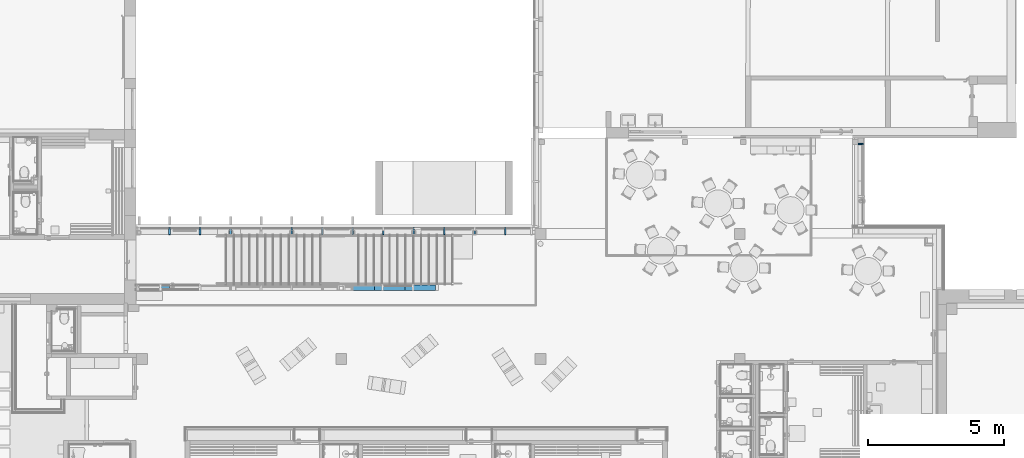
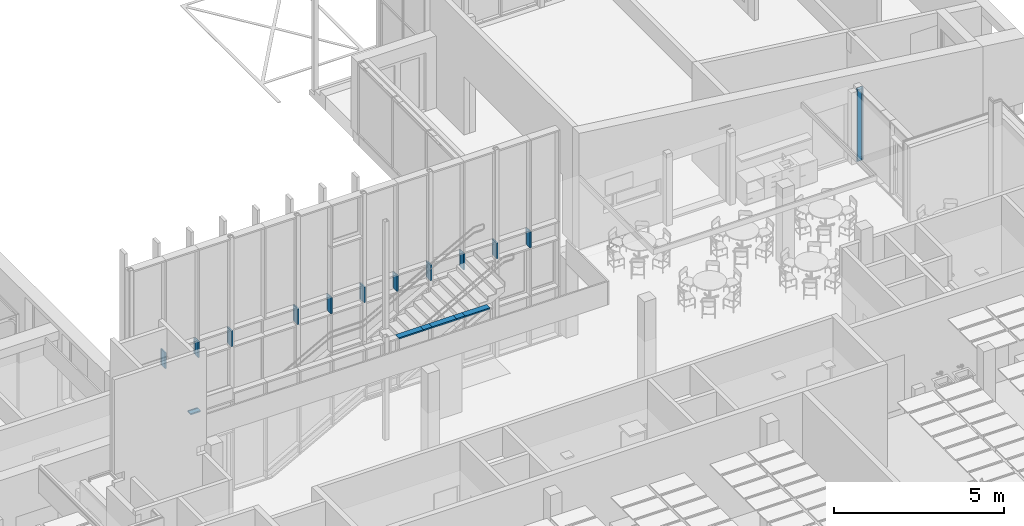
# One storey, part 5 of 301: 18 members, 4 elements without a shape of their own.
"""IFC2X3 building model written with IfcOpenShell, lengths in millimetres."""

import ifcopenshell
import ifcopenshell.guid

model = None  # the IFC model being written
_history = None  # IfcOwnerHistory: only IFC2X3 demands one
_inside = {}  # id of a spatial element -> (the spatial element, [elements in it])
_under = {}  # id of a project, library or spatial element -> (it, [spatial elements below it])
_declared = {}  # id of a project -> (the project, [libraries it declares])
_typed = {}  # id of a type object -> (the type object, [elements of that type])
_made_of = {}  # id of a material, layer set ... -> (it, [elements and type objects made of it])


def new_model(schema):
    """Start an empty IFC model of exactly this schema.

    Asked for "IFC4X3", IfcOpenShell would pick the latest addendum, in which some entities
    have other attributes; the version numbers below select the first issue.
    IFC2X3 requires an IfcOwnerHistory on every rooted entity: one is made here for all.
    """
    global model, _history
    if schema == "IFC4X3":
        model = ifcopenshell.file(schema_version=(4, 3, 0, 0))
    else:
        model = ifcopenshell.file(schema=schema)
    _inside.clear()
    _under.clear()
    _declared.clear()
    _typed.clear()
    _made_of.clear()
    _history = None
    if model.schema == "IFC2X3":
        org = make("IfcOrganization", Name="unknown")
        user = make(
            "IfcPersonAndOrganization",
            ThePerson=make("IfcPerson", FamilyName="unknown"),
            TheOrganization=org,
        )
        app = make(
            "IfcApplication",
            ApplicationDeveloper=org,
            Version="unknown",
            ApplicationFullName="unknown",
            ApplicationIdentifier="unknown",
        )
        _history = make(
            "IfcOwnerHistory",
            OwningUser=user,
            OwningApplication=app,
            ChangeAction="ADDED",
            CreationDate=0,
        )
    return model


def make(cls, **values):
    """One entity of the class cls with the attributes given. An attribute that is None is left unset."""
    return model.create_entity(
        cls, **{name: value for name, value in values.items() if value is not None}
    )


def entity(cls, *values):
    """Any entity or typed value of the class cls, its attributes in the order of the schema. None: left unset."""
    e = model.create_entity(cls)
    for i, value in enumerate(values):
        if value is not None:
            e[i] = value
    return e


def rooted(cls, **values):
    """An entity with a GlobalId (a new one), such as an element, a storey or a relation."""
    return make(cls, GlobalId=ifcopenshell.guid.new(), OwnerHistory=_history, **values)


def si_unit(unit_type, name, prefix=None):
    """IfcSIUnit, for example si_unit("LENGTHUNIT", "METRE", prefix="MILLI")."""
    return make("IfcSIUnit", UnitType=unit_type, Prefix=prefix, Name=name)


def converted_unit(unit_type, name, factor, base, dimensions=None, offset=None):
    """IfcConversionBasedUnit, such as the inch: factor (a typed value) times the base unit."""
    return make(
        "IfcConversionBasedUnit"
        if offset is None
        else "IfcConversionBasedUnitWithOffset",
        ConversionOffset=offset,
        Dimensions=None
        if dimensions is None
        else entity("IfcDimensionalExponents", *dimensions),
        UnitType=unit_type,
        Name=name,
        ConversionFactor=make(
            "IfcMeasureWithUnit", ValueComponent=factor, UnitComponent=base
        ),
    )


def derived_unit(unit_type, elements):
    """IfcDerivedUnit: a product of units, each with its exponent."""
    return make(
        "IfcDerivedUnit",
        Elements=[
            make("IfcDerivedUnitElement", Unit=unit, Exponent=power)
            for unit, power in elements
        ],
        UnitType=unit_type,
    )


def money_unit(currency):
    """IfcMonetaryUnit."""
    return make("IfcMonetaryUnit", Currency=currency)


def assignment(units):
    """IfcUnitAssignment: the units of a project."""
    return None if units is None else make("IfcUnitAssignment", Units=units)


def point(xyz):
    """IfcCartesianPoint."""
    return None if xyz is None else make("IfcCartesianPoint", Coordinates=xyz)


def direction(xyz):
    """IfcDirection."""
    return None if xyz is None else make("IfcDirection", DirectionRatios=xyz)


def frame(location, z_axis=None, x_axis=None):
    """IfcAxis2Placement3D, a coordinate frame: its origin and axes. An axis left out is left unset."""
    return make(
        "IfcAxis2Placement3D",
        Location=point(location),
        Axis=direction(z_axis),
        RefDirection=direction(x_axis),
    )


def origin_with_axes():
    """The frame at (0, 0, 0) with the z axis (0, 0, 1) and the x axis (1, 0, 0) written out."""
    return frame((0.0, 0.0, 0.0), z_axis=(0.0, 0.0, 1.0), x_axis=(1.0, 0.0, 0.0))


def place(relative_to, where):
    """IfcLocalPlacement: puts the frame where relative to a parent placement (None: the world)."""
    return make(
        "IfcLocalPlacement", PlacementRelTo=relative_to, RelativePlacement=where
    )


def context(
    kind, dimensions, precision=None, world=None, true_north=None, identifier=None
):
    """IfcGeometricRepresentationContext, for example the 3D "Model" context."""
    return make(
        "IfcGeometricRepresentationContext",
        ContextIdentifier=identifier,
        ContextType=kind,
        CoordinateSpaceDimension=dimensions,
        Precision=precision,
        WorldCoordinateSystem=world,
        TrueNorth=true_north,
    )


def subcontext(parent, identifier, kind, view, scale=None):
    """IfcGeometricRepresentationSubContext, for example "Body" below "Model"."""
    return make(
        "IfcGeometricRepresentationSubContext",
        ContextIdentifier=identifier,
        ContextType=kind,
        ParentContext=parent,
        TargetScale=scale,
        TargetView=view,
    )


def project(units=None, contexts=None):
    """IfcProject with its units and contexts."""
    return rooted(
        "IfcProject",
        Name="project",
        RepresentationContexts=contexts,
        UnitsInContext=assignment(units),
    )


def spatial(cls, under=None, at=None, **own):
    """A site, building, storey or space (cls), placed at a placement, below another one or the project."""
    s = rooted(cls, ObjectPlacement=at, **own)
    if under is not None:
        _under.setdefault(under.id(), (under, []))[1].append(s)
    return s


def faces_of(points, faces, orient=None, outer=None):
    """IfcFace entities. A face is a list of loops; a loop is a list of indices into points, from 0.

    orient and outer hold one flag for each loop. By default every Orientation is true, the
    first loop of a face is its IfcFaceOuterBound and the others are IfcFaceBound.
    """
    made = []
    for i, loops in enumerate(faces):
        bounds = []
        for j, loop in enumerate(loops):
            is_outer = j == 0 if outer is None else outer[i][j]
            bounds.append(
                make(
                    "IfcFaceOuterBound" if is_outer else "IfcFaceBound",
                    Bound=make("IfcPolyLoop", Polygon=[points[k] for k in loop]),
                    Orientation=True if orient is None else orient[i][j],
                )
            )
        made.append(make("IfcFace", Bounds=bounds))
    return made


def faceted_brep(points, faces, orient=None, outer=None, voids=None):
    """IfcFacetedBrep: a solid bounded by flat faces; with voids (closed shells), ...WithVoids."""
    shared = [point(p) for p in points]
    hull = make("IfcClosedShell", CfsFaces=faces_of(shared, faces, orient, outer))
    if voids is None:
        return make("IfcFacetedBrep", Outer=hull)
    return make(
        "IfcFacetedBrepWithVoids",
        Outer=hull,
        Voids=[
            make(cls, CfsFaces=faces_of(shared, fs, o, b)) for cls, fs, o, b in voids
        ],
    )


def shape(context_of_items, identifier, shape_type, items):
    """IfcShapeRepresentation: the items that make up one representation, for example the "Body"."""
    return make(
        "IfcShapeRepresentation",
        ContextOfItems=context_of_items,
        RepresentationIdentifier=identifier,
        RepresentationType=shape_type,
        Items=items,
    )


def source(mapping_origin, context_of_items, identifier, shape_type, items):
    """IfcRepresentationMap: a shape defined once, which mapped items show again and again."""
    return make(
        "IfcRepresentationMap",
        MappingOrigin=mapping_origin,
        MappedRepresentation=shape(context_of_items, identifier, shape_type, items),
    )


def transform(
    local_origin,
    x_axis=None,
    y_axis=None,
    z_axis=None,
    scale=None,
    scale2=None,
    scale3=None,
    uniform=True,
):
    """IfcCartesianTransformationOperator3D, or its non-uniform kind. x_axis, y_axis, z_axis: its Axis1, 2, 3."""
    if uniform:
        return make(
            "IfcCartesianTransformationOperator3D",
            Axis1=direction(x_axis),
            Axis2=direction(y_axis),
            LocalOrigin=point(local_origin),
            Scale=scale,
            Axis3=direction(z_axis),
        )
    return make(
        "IfcCartesianTransformationOperator3DnonUniform",
        Axis1=direction(x_axis),
        Axis2=direction(y_axis),
        LocalOrigin=point(local_origin),
        Scale=scale,
        Axis3=direction(z_axis),
        Scale2=scale2,
        Scale3=scale3,
    )


def mapped(mapping_source, mapping_target):
    """IfcMappedItem: shows the shape of a source again, moved by a transform."""
    return make(
        "IfcMappedItem", MappingSource=mapping_source, MappingTarget=mapping_target
    )


def material(Name=None, Category=None):
    """IfcMaterial."""
    return make("IfcMaterial", Name=Name, Category=Category)


def made_of(thing, what):
    """Note that an element or type object is made of a material, layer set ...; save() writes the relation."""
    if what is not None:
        _made_of.setdefault(what.id(), (what, []))[1].append(thing)
    return thing


def type_object(cls, material=None, **own):
    """A type object (cls), such as IfcWallType, which elements share."""
    return made_of(rooted(cls, **own), material)


def element(
    cls,
    number,
    at=None,
    inside=None,
    cuts=None,
    type_object=None,
    material=None,
    context=None,
    identifier="Body",
    shape_type=None,
    held_by="IfcProductDefinitionShape",
    body=None,
    shapes=None,
    **own,
):
    """One element of the class cls, such as IfcWall. Its Tag is "e" and its number.

    at: its placement. inside: the storey or other place that contains it. cuts: it is an
    opening in that element (IfcRelVoidsElement). A single representation is given by context,
    identifier, shape_type and body (its items); several are given by shapes. held_by: the class
    of the entity that holds the representations. save() writes the other relations.
    """
    e = rooted(cls, Tag="e%d" % number, ObjectPlacement=at, **own)
    if body is not None:
        shapes = [shape(context, identifier, shape_type, body)]
    if shapes is not None:
        e.Representation = make(held_by, Representations=shapes)
    if inside is not None:
        _inside.setdefault(inside.id(), (inside, []))[1].append(e)
    if cuts is not None:
        rooted(
            "IfcRelVoidsElement", RelatingBuildingElement=cuts, RelatedOpeningElement=e
        )
    if type_object is not None:
        _typed.setdefault(type_object.id(), (type_object, []))[1].append(e)
    return made_of(e, material)


def aggregate(whole, parts):
    """IfcRelAggregates: a whole, such as a stair, and the parts it consists of."""
    return rooted("IfcRelAggregates", RelatingObject=whole, RelatedObjects=parts)


def save(model, path):
    """Write the relations noted so far, then the file.

    IfcRelAggregates (storeys below a building ...), IfcRelContainedInSpatialStructure (elements
    in a storey), IfcRelDefinesByType, IfcRelAssociatesMaterial and IfcRelDeclares: one each for
    every whole, place, type object, material and project.
    """
    for whole, parts in _under.values():
        aggregate(whole, parts)
    for where, things in _inside.values():
        rooted(
            "IfcRelContainedInSpatialStructure",
            RelatedElements=things,
            RelatingStructure=where,
        )
    for kind, things in _typed.values():
        rooted("IfcRelDefinesByType", RelatedObjects=things, RelatingType=kind)
    for what, things in _made_of.values():
        rooted("IfcRelAssociatesMaterial", RelatedObjects=things, RelatingMaterial=what)
    for by, libraries in _declared.values():
        rooted("IfcRelDeclares", RelatingContext=by, RelatedDefinitions=libraries)
    model.write(path)


model = new_model("IFC2X3")

# Units and contexts
model_context = context("Model", 3, precision=0.01, world=origin_with_axes(), true_north=direction((0.0, 1.0)))
body_context = subcontext(model_context, "Body", "Model", "MODEL_VIEW")
ifc_project = project(units=[si_unit("LENGTHUNIT", "METRE", prefix="MILLI"), si_unit("AREAUNIT", "SQUARE_METRE"), si_unit("VOLUMEUNIT", "CUBIC_METRE"), converted_unit("PLANEANGLEUNIT", "DEGREE", entity("IfcPlaneAngleMeasure", 0.0174532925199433), si_unit("PLANEANGLEUNIT", "RADIAN"), dimensions=[0, 0, 0, 0, 0, 0, 0]), money_unit("EUR"), converted_unit("TIMEUNIT", "Year", entity("IfcTimeMeasure", 31557600.0), si_unit("TIMEUNIT", "SECOND"), dimensions=[0, 0, 1, 0, 0, 0, 0]), si_unit("MASSUNIT", "GRAM", prefix="KILO"), si_unit("THERMODYNAMICTEMPERATUREUNIT", "DEGREE_CELSIUS"), si_unit("LUMINOUSINTENSITYUNIT", "LUMEN"), si_unit("ENERGYUNIT", "JOULE", prefix="MEGA"), derived_unit("THERMALCONDUCTANCEUNIT", [(si_unit("POWERUNIT", "WATT"), 1), (si_unit("LENGTHUNIT", "METRE"), -1), (si_unit("THERMODYNAMICTEMPERATUREUNIT", "KELVIN"), -1)]), derived_unit("SPECIFICHEATCAPACITYUNIT", [(si_unit("ENERGYUNIT", "JOULE"), 1), (si_unit("MASSUNIT", "GRAM", prefix="KILO"), -1), (si_unit("THERMODYNAMICTEMPERATUREUNIT", "KELVIN"), -1)]), derived_unit("MASSDENSITYUNIT", [(si_unit("MASSUNIT", "GRAM", prefix="KILO"), 1), (si_unit("VOLUMEUNIT", "CUBIC_METRE"), -1)])], contexts=[model_context])

# Site, building, storey
site_placement = place(None, frame((0.0, 0.0, 8650.0), z_axis=(0.0, 0.0, 1.0), x_axis=(1.0, 0.0, 0.0)))
site = spatial("IfcSite", under=ifc_project, at=site_placement, Name="43301:001:0844", CompositionType="ELEMENT")
building_placement = place(site_placement, origin_with_axes())
building = spatial("IfcBuilding", under=site, at=building_placement, Name="Kuressaare Ametikooli tuulikute mehaanikute õppekorpus", CompositionType="ELEMENT")
storey_placement = place(building_placement, origin_with_axes())
storey = spatial("IfcBuildingStorey", under=building, at=storey_placement, Name="1.korrus", CompositionType="ELEMENT", Elevation=0.0)

# Curtain wall, members
curtain_wall_type = type_object("IfcCurtainWallType", Name="Curtain Wall Type", PredefinedType="NOTDEFINED")
curtain_wall_1_placement = place(storey_placement, frame((116704.6026822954, 28579.57374875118, 35.00000000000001), z_axis=(0.0, 0.0, 1.0), x_axis=(1.0, 0.0, 0.0)))
curtain_wall_1 = element("IfcCurtainWall", 1, at=curtain_wall_1_placement, inside=storey, type_object=curtain_wall_type, Name="KF-1.1")
ifc_material = material(Name="Aluminium")
member_type_1 = type_object("IfcMemberType", Name="Mullion Frame 50 x 260", PredefinedType="NOTDEFINED")
shared_shape_1 = source(origin_with_axes(), body_context, "Body", "Brep", [
    faceted_brep([(5.000000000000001, -20.0, 594.9999919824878), (5.000000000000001, 20.0, 594.9999919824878), (25.0, 19.99999999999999, 594.9999919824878), (25.0, 40.00000000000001, 594.9999919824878), (-25.0, 40.00000000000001, 594.9999919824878), (-25.0, 20.0, 594.9999919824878), (-5.000000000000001, 20.0, 594.9999919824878), (-5.000000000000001, -20.0, 594.9999919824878), (-25.0, -20.0, 594.9999919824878), (-25.0, -220.0, 594.9999919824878), (25.0, -220.0, 594.9999919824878), (25.0, -19.99999999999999, 594.9999919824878), (5.000000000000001, -20.0, 24.99999999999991), (5.000000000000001, 20.0, 24.99999999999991), (25.0, 20.0, 24.99999999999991), (25.0, 40.00000000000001, 24.99999999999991), (-25.0, 40.00000000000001, 24.99999999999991), (-25.0, 19.99999999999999, 24.99999999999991), (-5.000000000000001, 20.0, 24.99999999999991), (-5.000000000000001, -20.0, 24.99999999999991), (-25.0, -19.99999999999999, 24.99999999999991), (-25.0, -220.0, 24.99999999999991), (25.0, -220.0, 24.99999999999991), (25.0, -20.0, 24.99999999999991)], [[[0, 1, 2, 3, 4, 5, 6, 7, 8, 9, 10, 11]], [[0, 12, 13, 1]], [[1, 13, 14, 2]], [[14, 15, 3, 2]], [[4, 3, 15, 16]], [[17, 5, 4, 16]], [[5, 17, 18, 6]], [[7, 6, 18, 19]], [[8, 7, 19, 20]], [[8, 20, 21, 9]], [[10, 9, 21, 22]], [[11, 10, 22, 23]], [[11, 23, 12, 0]], [[13, 12, 23, 22, 21, 20, 19, 18, 17, 16, 15, 14]]]),
])
member_1_placement = place(curtain_wall_1_placement, frame((-11812.5, 0.0, 3470.000008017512), z_axis=(0.0, 0.0, 1.0), x_axis=(-1.0, 0.0, 0.0)))
member_1 = element("IfcMember", 2, at=member_1_placement, type_object=member_type_1, material=ifc_material, context=body_context, shape_type="MappedRepresentation", body=[
    mapped(shared_shape_1, transform((0.0, 0.0, 0.0), x_axis=(-1.0, 0.0, 0.0), y_axis=(0.0, -1.0, 0.0), z_axis=(0.0, 0.0, 1.0))),
])
member_2_placement = place(curtain_wall_1_placement, frame((-10687.5, 0.0, 3470.000008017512), z_axis=(0.0, 0.0, 1.0), x_axis=(-1.0, 0.0, 0.0)))
member_2 = element("IfcMember", 3, at=member_2_placement, type_object=member_type_1, material=ifc_material, context=body_context, shape_type="MappedRepresentation", body=[
    mapped(shared_shape_1, transform((0.0, 0.0, 0.0), x_axis=(-1.0, 0.0, 0.0), y_axis=(0.0, -1.0, 0.0), z_axis=(0.0, 0.0, 1.0))),
])
member_3_placement = place(curtain_wall_1_placement, frame((-9562.5, 0.0, 3470.000008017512), z_axis=(0.0, 0.0, 1.0), x_axis=(-1.0, 0.0, 0.0)))
member_3 = element("IfcMember", 4, at=member_3_placement, type_object=member_type_1, material=ifc_material, context=body_context, shape_type="MappedRepresentation", body=[
    mapped(shared_shape_1, transform((0.0, 0.0, 0.0), x_axis=(-1.0, 0.0, 0.0), y_axis=(0.0, -1.0, 0.0), z_axis=(0.0, 0.0, 1.0))),
])
member_4_placement = place(curtain_wall_1_placement, frame((-7312.5, 0.0, 3470.000008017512), z_axis=(0.0, 0.0, 1.0), x_axis=(-1.0, 0.0, 0.0)))
member_4 = element("IfcMember", 5, at=member_4_placement, type_object=member_type_1, material=ifc_material, context=body_context, shape_type="MappedRepresentation", body=[
    mapped(shared_shape_1, transform((0.0, 0.0, 0.0), x_axis=(-1.0, 0.0, 0.0), y_axis=(0.0, -1.0, 0.0), z_axis=(0.0, 0.0, 1.0))),
])
member_5_placement = place(curtain_wall_1_placement, frame((-6187.5, 0.0, 3470.000008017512), z_axis=(0.0, 0.0, 1.0), x_axis=(-1.0, 0.0, 0.0)))
member_5 = element("IfcMember", 6, at=member_5_placement, type_object=member_type_1, material=ifc_material, context=body_context, shape_type="MappedRepresentation", body=[
    mapped(shared_shape_1, transform((0.0, 0.0, 0.0), x_axis=(-1.0, 0.0, 0.0), y_axis=(0.0, -1.0, 0.0), z_axis=(0.0, 0.0, 1.0))),
])
member_6_placement = place(curtain_wall_1_placement, frame((-5062.5, 0.0, 3470.000008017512), z_axis=(0.0, 0.0, 1.0), x_axis=(-1.0, 0.0, 0.0)))
member_6 = element("IfcMember", 7, at=member_6_placement, type_object=member_type_1, material=ifc_material, context=body_context, shape_type="MappedRepresentation", body=[
    mapped(shared_shape_1, transform((0.0, 0.0, 0.0), x_axis=(-1.0, 0.0, 0.0), y_axis=(0.0, -1.0, 0.0), z_axis=(0.0, 0.0, 1.0))),
])
member_7_placement = place(curtain_wall_1_placement, frame((-3937.5, 0.0, 3470.000008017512), z_axis=(0.0, 0.0, 1.0), x_axis=(-1.0, 0.0, 0.0)))
member_7 = element("IfcMember", 8, at=member_7_placement, type_object=member_type_1, material=ifc_material, context=body_context, shape_type="MappedRepresentation", body=[
    mapped(shared_shape_1, transform((0.0, 0.0, 0.0), x_axis=(-1.0, 0.0, 0.0), y_axis=(0.0, -1.0, 0.0), z_axis=(0.0, 0.0, 1.0))),
])
member_8_placement = place(curtain_wall_1_placement, frame((-2812.5, 0.0, 3470.000008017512), z_axis=(0.0, 0.0, 1.0), x_axis=(-1.0, 0.0, 0.0)))
member_8 = element("IfcMember", 9, at=member_8_placement, type_object=member_type_1, material=ifc_material, context=body_context, shape_type="MappedRepresentation", body=[
    mapped(shared_shape_1, transform((0.0, 0.0, 0.0), x_axis=(-1.0, 0.0, 0.0), y_axis=(0.0, -1.0, 0.0), z_axis=(0.0, 0.0, 1.0))),
])
member_9_placement = place(curtain_wall_1_placement, frame((-1687.5, 0.0, 3470.000008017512), z_axis=(0.0, 0.0, 1.0), x_axis=(-1.0, 0.0, 0.0)))
member_9 = element("IfcMember", 10, at=member_9_placement, type_object=member_type_1, material=ifc_material, context=body_context, shape_type="MappedRepresentation", body=[
    mapped(shared_shape_1, transform((0.0, 0.0, 0.0), x_axis=(-1.0, 0.0, 0.0), y_axis=(0.0, -1.0, 0.0), z_axis=(0.0, 0.0, 1.0))),
])
member_10_placement = place(curtain_wall_1_placement, frame((-562.5, 0.0, 3470.000008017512), z_axis=(0.0, 0.0, 1.0), x_axis=(-1.0, 0.0, 0.0)))
member_10 = element("IfcMember", 11, at=member_10_placement, type_object=member_type_1, material=ifc_material, context=body_context, shape_type="MappedRepresentation", body=[
    mapped(shared_shape_1, transform((0.0, 0.0, 0.0), x_axis=(-1.0, 0.0, 0.0), y_axis=(0.0, -1.0, 0.0), z_axis=(0.0, 0.0, 1.0))),
])
member_11_placement = place(curtain_wall_1_placement, frame((562.5, 0.0, 3470.000008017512), z_axis=(0.0, 0.0, 1.0), x_axis=(-1.0, 0.0, 0.0)))
member_11 = element("IfcMember", 12, at=member_11_placement, type_object=member_type_1, material=ifc_material, context=body_context, shape_type="MappedRepresentation", body=[
    mapped(shared_shape_1, transform((0.0, 0.0, 0.0), x_axis=(-1.0, 0.0, 0.0), y_axis=(0.0, -1.0, 0.0), z_axis=(0.0, 0.0, 1.0))),
])
aggregate(curtain_wall_1, [member_1, member_2, member_3, member_4, member_5, member_6, member_7, member_8, member_9, member_10, member_11])

# Curtain wall, member
curtain_wall_2_placement = place(storey_placement, frame((105155.4360221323, 26479.57374875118, 34.99996632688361), z_axis=(0.0, 0.0, 1.0), x_axis=(1.0, 0.0, 0.0)))
curtain_wall_2 = element("IfcCurtainWall", 13, at=curtain_wall_2_placement, inside=storey, type_object=curtain_wall_type, Name="SKF-1.1,EI60")
member_type_2 = type_object("IfcMemberType", Name="Boundary Frame 50 x 200", PredefinedType="NOTDEFINED")
shared_shape_2 = source(origin_with_axes(), body_context, "Body", "Brep", [
    faceted_brep([(5.000000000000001, -20.0, 335.0000065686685), (5.000000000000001, 20.0, 335.0000065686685), (25.0, 20.0, 335.0000065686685), (25.0, 30.0, 335.0000065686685), (-25.0, 30.0, 335.0000065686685), (-25.0, 19.99999999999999, 335.0000065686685), (-5.000000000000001, 20.0, 335.0000065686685), (-5.000000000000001, -20.0, 335.0000065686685), (-25.0, -19.99999999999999, 335.0000065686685), (-25.0, -170.0, 335.0000065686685), (25.0, -170.0, 335.0000065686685), (25.0, -20.0, 335.0000065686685), (5.000000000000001, -20.0, -3.724831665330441e-05), (5.000000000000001, 20.0, -3.724831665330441e-05), (25.0, 20.0, -3.724831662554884e-05), (25.0, 30.0, -3.724831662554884e-05), (-25.0, 30.0, -3.724831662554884e-05), (-25.0, 19.99999999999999, -3.724831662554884e-05), (-5.000000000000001, 20.0, -3.724831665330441e-05), (-5.000000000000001, -20.0, -3.724831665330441e-05), (-25.0, -19.99999999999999, -3.724831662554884e-05), (-25.0, -170.0, -3.724831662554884e-05), (25.0, -170.0, -3.724831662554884e-05), (25.0, -20.0, -3.724831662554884e-05)], [[[0, 1, 2, 3, 4, 5, 6, 7, 8, 9, 10, 11]], [[0, 12, 13, 1]], [[1, 13, 14, 2]], [[14, 15, 3, 2]], [[3, 15, 16, 4]], [[17, 5, 4, 16]], [[5, 17, 18, 6]], [[7, 6, 18, 19]], [[8, 7, 19, 20]], [[8, 20, 21, 9]], [[9, 21, 22, 10]], [[11, 10, 22, 23]], [[11, 23, 12, 0]], [[13, 12, 23, 22, 21, 20, 19, 18, 17, 16, 15, 14]]]),
])
member_12_placement = place(curtain_wall_2_placement, frame((-263.3333398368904, 0.0, 3209.99994650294), z_axis=(-1.0, 0.0, 0.0), x_axis=(0.0, 0.0, -1.0)))
member_12 = element("IfcMember", 14, at=member_12_placement, type_object=member_type_2, material=ifc_material, context=body_context, shape_type="MappedRepresentation", body=[
    mapped(shared_shape_2, transform((0.0, 0.0, 0.0), x_axis=(-1.0, 0.0, 0.0), y_axis=(0.0, -1.0, 0.0), z_axis=(0.0, 0.0, 1.0))),
])
aggregate(curtain_wall_2, [member_12])

curtain_wall_3_placement = place(storey_placement, frame((130440.0312746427, 29344.34887802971, 34.99990943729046), z_axis=(0.0, 0.0, 1.0), x_axis=(1.0, 0.0, 0.0)))
curtain_wall_3 = element("IfcCurtainWall", 15, at=curtain_wall_3_placement, inside=storey, type_object=curtain_wall_type, Name="KF-2")
shared_shape_3 = source(origin_with_axes(), body_context, "Body", "Brep", [
    faceted_brep([(-5.000000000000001, -20.0, 2605.000036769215), (-25.0, -20.0, 2585.000036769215), (-25.0, -160.0, 2585.000036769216), (25.0, -160.0, 2635.000036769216), (25.0, 40.00000000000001, 2635.000036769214), (-25.0, 40.00000000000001, 2585.000036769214), (-25.0, 20.0, 2585.000036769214), (-5.000000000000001, 20.0, 2605.000036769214), (-5.000000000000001, -20.0, 4.999999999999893), (-25.0, -19.99999999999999, 24.99999999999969), (-25.0, -160.0, 24.99999999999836), (25.0, -160.0, -25.00000000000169), (25.0, 40.00000000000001, -24.99999999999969), (-25.0, 40.00000000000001, 25.00000000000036), (-25.0, 19.99999999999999, 25.00000000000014), (-5.000000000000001, 20.0, 5.000000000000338)], [[[0, 1, 2, 3, 4, 5, 6, 7]], [[0, 8, 9, 1]], [[9, 10, 2, 1]], [[2, 10, 11, 3]], [[3, 11, 12, 4]], [[4, 12, 13, 5]], [[6, 5, 13, 14]], [[14, 15, 7, 6]], [[7, 15, 8, 0]], [[8, 15, 14, 13, 12, 11, 10, 9]]]),
])
member_13_placement = place(curtain_wall_3_placement, frame((-3.539112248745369, 2359.808358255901, 2610.000036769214), z_axis=(0.0, 0.0, -1.0), x_axis=(0.001499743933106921, -0.9999988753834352, 0.0)))
member_13 = element("IfcMember", 16, at=member_13_placement, type_object=member_type_2, material=ifc_material, context=body_context, shape_type="MappedRepresentation", body=[
    mapped(shared_shape_3, transform((0.0, 0.0, 0.0), x_axis=(-1.0, 0.0, 0.0), y_axis=(0.0, -1.0, 0.0), z_axis=(0.0, 0.0, 1.0))),
])
aggregate(curtain_wall_3, [member_13])

# Curtain wall, members
curtain_wall_4_placement = place(storey_placement, frame((111472.5258007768, 26479.57374875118, 1595.348937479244), z_axis=(0.0, 0.0, 1.0), x_axis=(1.0, 0.0, 0.0)))
curtain_wall_4 = element("IfcCurtainWall", 17, at=curtain_wall_4_placement, inside=storey, type_object=curtain_wall_type, Name="SKF-1.2,EI60")
shared_shape_4 = source(origin_with_axes(), body_context, "Body", "Brep", [
    faceted_brep([(-5.000000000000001, -20.0, 289.1533159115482), (-25.0, -19.99999999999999, 289.1533159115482), (-25.0, -170.0, 289.1533159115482), (25.0, -170.0, 289.1533159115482), (25.0, 30.0, 289.1533159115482), (-25.0, 30.0, 289.1533159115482), (-25.0, 19.99999999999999, 289.1533159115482), (-5.000000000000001, 20.0, 289.1533159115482), (-5.000000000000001, -20.0, 0.0), (-25.0, -19.99999999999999, 0.0), (-25.0, -170.0, 0.0), (25.0, -170.0, 0.0), (25.0, 30.0, 0.0), (-25.0, 30.0, 0.0), (-25.0, 19.99999999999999, 0.0), (-5.000000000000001, 20.0, 0.0)], [[[0, 1, 2, 3, 4, 5, 6, 7]], [[0, 8, 9, 1]], [[9, 10, 2, 1]], [[10, 11, 3, 2]], [[11, 12, 4, 3]], [[12, 13, 5, 4]], [[6, 5, 13, 14]], [[14, 15, 7, 6]], [[7, 15, 8, 0]], [[8, 15, 14, 13, 12, 11, 10, 9]]]),
])
member_14_placement = place(curtain_wall_4_placement, frame((1269.576680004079, 0.0, 1900.000036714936), z_axis=(-1.0, 0.0, 0.0), x_axis=(0.0, 0.0, -1.0)))
member_14 = element("IfcMember", 18, at=member_14_placement, type_object=member_type_2, material=ifc_material, context=body_context, shape_type="MappedRepresentation", body=[
    mapped(shared_shape_4, transform((0.0, 0.0, 0.0), x_axis=(-1.0, 0.0, 0.0), y_axis=(0.0, -1.0, 0.0), z_axis=(0.0, 0.0, 1.0))),
])
member_15_placement = place(curtain_wall_4_placement, frame((2394.576645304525, 0.0, 1900.000036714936), z_axis=(-1.0, 0.0, 0.0), x_axis=(0.0, 0.0, -1.0)))
member_15 = element("IfcMember", 19, at=member_15_placement, type_object=member_type_2, material=ifc_material, context=body_context, shape_type="MappedRepresentation", body=[
    mapped(shared_shape_4, transform((0.0, 0.0, 0.0), x_axis=(-1.0, 0.0, 0.0), y_axis=(0.0, -1.0, 0.0), z_axis=(0.0, 0.0, 1.0))),
])
shared_shape_5 = source(origin_with_axes(), body_context, "Body", "Brep", [
    faceted_brep([(-5.000000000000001, -20.0, 835.8466840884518), (-25.0, -19.99999999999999, 835.8466840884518), (-25.0, -170.0, 835.8466840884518), (25.0, -170.0, 835.8466840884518), (25.0, 30.0, 835.8466840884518), (-25.0, 30.0, 835.8466840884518), (-25.0, 19.99999999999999, 835.8466840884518), (-5.000000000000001, 20.0, 835.8466840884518), (-5.000000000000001, -20.0, 0.0), (-25.0, -19.99999999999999, 0.0), (-25.0, -170.0, 0.0), (25.0, -170.0, 0.0), (25.0, 30.0, 0.0), (-25.0, 30.0, 0.0), (-25.0, 19.99999999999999, 0.0), (-5.000000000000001, 20.0, 0.0)], [[[0, 1, 2, 3, 4, 5, 6, 7]], [[0, 8, 9, 1]], [[9, 10, 2, 1]], [[10, 11, 3, 2]], [[11, 12, 4, 3]], [[12, 13, 5, 4]], [[6, 5, 13, 14]], [[14, 15, 7, 6]], [[7, 15, 8, 0]], [[8, 15, 14, 13, 12, 11, 10, 9]]]),
])
member_16_placement = place(curtain_wall_4_placement, frame((2105.423349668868, 0.0, 1900.000036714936), z_axis=(-1.0, 0.0, 0.0), x_axis=(0.0, 0.0, -1.0)))
member_16 = element("IfcMember", 20, at=member_16_placement, type_object=member_type_2, material=ifc_material, context=body_context, shape_type="MappedRepresentation", body=[
    mapped(shared_shape_5, transform((0.0, 0.0, 0.0), x_axis=(-1.0, 0.0, 0.0), y_axis=(0.0, -1.0, 0.0), z_axis=(0.0, 0.0, 1.0))),
])
member_17_placement = place(curtain_wall_4_placement, frame((980.4233496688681, 0.0, 1900.000036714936), z_axis=(-1.0, 0.0, 0.0), x_axis=(0.0, 0.0, -1.0)))
member_17 = element("IfcMember", 21, at=member_17_placement, type_object=member_type_2, material=ifc_material, context=body_context, shape_type="MappedRepresentation", body=[
    mapped(shared_shape_5, transform((0.0, 0.0, 0.0), x_axis=(-1.0, 0.0, 0.0), y_axis=(0.0, -1.0, 0.0), z_axis=(0.0, 0.0, 1.0))),
])
member_18_placement = place(curtain_wall_4_placement, frame((3230.423349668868, 0.0, 1900.000036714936), z_axis=(-1.0, 0.0, 0.0), x_axis=(0.0, 0.0, -1.0)))
member_18 = element("IfcMember", 22, at=member_18_placement, type_object=member_type_2, material=ifc_material, context=body_context, shape_type="MappedRepresentation", body=[
    mapped(shared_shape_5, transform((0.0, 0.0, 0.0), x_axis=(-1.0, 0.0, 0.0), y_axis=(0.0, -1.0, 0.0), z_axis=(0.0, 0.0, 1.0))),
])
aggregate(curtain_wall_4, [member_14, member_15, member_16, member_17, member_18])

save(model, "model.ifc")
